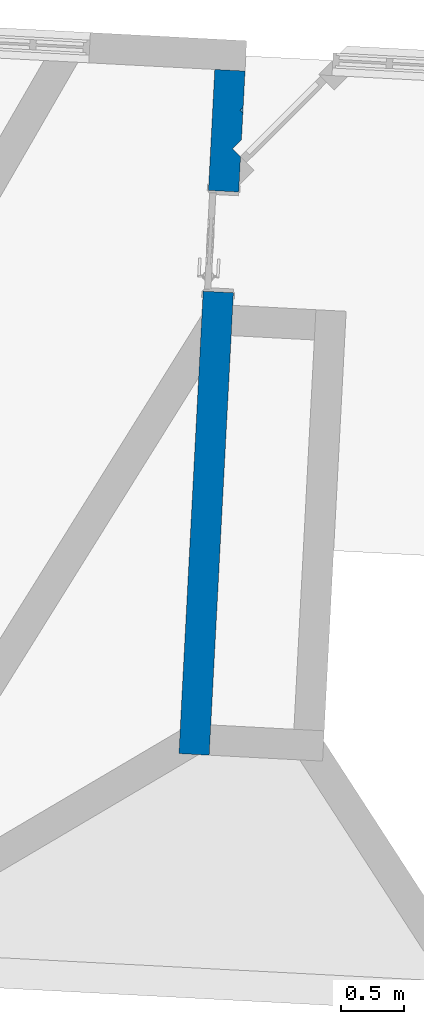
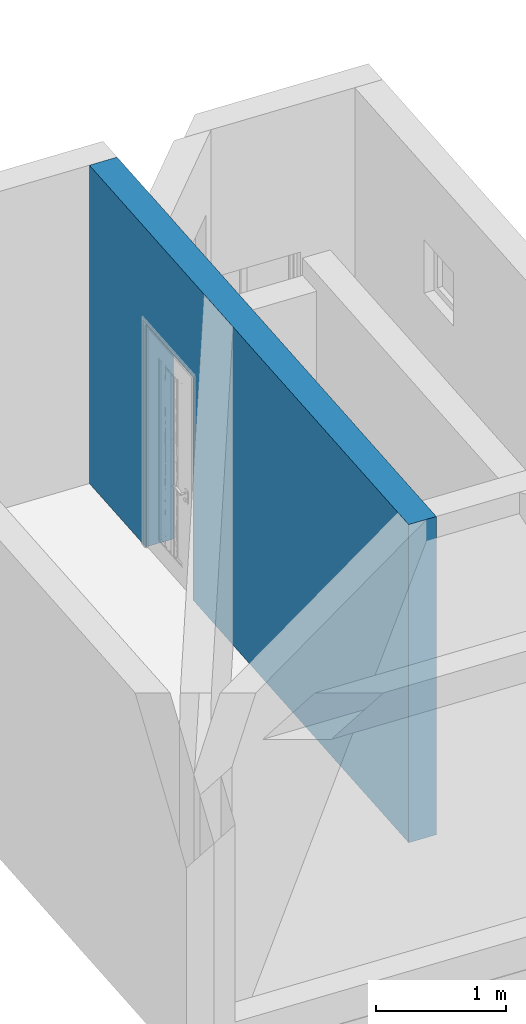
# One storey, part 27 of 33: 1 wall, 3 openings.
"""IFC2X3 building model written with IfcOpenShell, lengths in millimetres."""

from ifc_helpers import new_model, entity, si_unit, converted_unit, derived_unit, direction, frame, frame_2d, origin, place, context, subcontext, project, spatial, rectangle, extrude, material, layer, layer_set, layer_usage, type_object, element, save


model = new_model("IFC2X3")

# Units and contexts
model_context = context("Model", 3, precision=0.01, world=origin(), true_north=direction((6.12303176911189e-17, 1.0)))
body_context = subcontext(model_context, "Body", "Model", "MODEL_VIEW")
ifc_project = project(units=[si_unit("LENGTHUNIT", "METRE", prefix="MILLI"), si_unit("AREAUNIT", "SQUARE_METRE"), si_unit("VOLUMEUNIT", "CUBIC_METRE"), converted_unit("PLANEANGLEUNIT", "DEGREE", entity("IfcRatioMeasure", 0.0174532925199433), si_unit("PLANEANGLEUNIT", "RADIAN"), dimensions=[0, 0, 0, 0, 0, 0, 0]), si_unit("MASSUNIT", "GRAM", prefix="KILO"), derived_unit("MASSDENSITYUNIT", [(si_unit("MASSUNIT", "GRAM", prefix="KILO"), 1), (si_unit("LENGTHUNIT", "METRE"), -3)]), si_unit("TIMEUNIT", "SECOND"), si_unit("FREQUENCYUNIT", "HERTZ"), si_unit("THERMODYNAMICTEMPERATUREUNIT", "DEGREE_CELSIUS"), derived_unit("THERMALTRANSMITTANCEUNIT", [(si_unit("MASSUNIT", "GRAM", prefix="KILO"), 1), (si_unit("THERMODYNAMICTEMPERATUREUNIT", "KELVIN"), -1), (si_unit("TIMEUNIT", "SECOND"), -3)]), derived_unit("VOLUMETRICFLOWRATEUNIT", [(si_unit("LENGTHUNIT", "METRE"), 3), (si_unit("TIMEUNIT", "SECOND"), -1)]), si_unit("ELECTRICCURRENTUNIT", "AMPERE"), si_unit("ELECTRICVOLTAGEUNIT", "VOLT"), si_unit("POWERUNIT", "WATT"), si_unit("FORCEUNIT", "NEWTON", prefix="KILO"), si_unit("ILLUMINANCEUNIT", "LUX"), si_unit("LUMINOUSFLUXUNIT", "LUMEN"), si_unit("LUMINOUSINTENSITYUNIT", "CANDELA"), derived_unit("USERDEFINED", [(si_unit("MASSUNIT", "GRAM", prefix="KILO"), -1), (si_unit("LENGTHUNIT", "METRE"), -2), (si_unit("TIMEUNIT", "SECOND"), 3), (si_unit("LUMINOUSFLUXUNIT", "LUMEN"), 1)]), derived_unit("LINEARVELOCITYUNIT", [(si_unit("LENGTHUNIT", "METRE"), 1), (si_unit("TIMEUNIT", "SECOND"), -1)]), si_unit("PRESSUREUNIT", "PASCAL"), derived_unit("USERDEFINED", [(si_unit("LENGTHUNIT", "METRE"), -2), (si_unit("MASSUNIT", "GRAM", prefix="KILO"), 1), (si_unit("TIMEUNIT", "SECOND"), -2)])], contexts=[model_context])

# Site, building, storey
site_placement = place(None, origin())
site = spatial("IfcSite", under=ifc_project, at=site_placement, Name="表面", CompositionType="ELEMENT")
building_placement = place(site_placement, origin())
building = spatial("IfcBuilding", under=site, at=building_placement, CompositionType="ELEMENT")
storey_placement = place(building_placement, frame((0.0, 0.0, 6000.0)))
storey = spatial("IfcBuildingStorey", under=building, at=storey_placement, Name="3F", CompositionType="ELEMENT", Elevation=6000.00000000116)

# Wall, openings
ifc_material_1 = material(Name="白色涂料")
ifc_layer_1 = layer(ifc_material_1, 10.0)
ifc_material_2 = material(Name="默认墙")
ifc_layer_2 = layer(ifc_material_2, 220.0)
ifc_layer_3 = layer(ifc_material_1, 10.0)
ifc_layer_set = layer_set([ifc_layer_1, ifc_layer_2, ifc_layer_3], Name="基本墙:粉刷墙240")
ifc_layer_usage = layer_usage(ifc_layer_set, "AXIS2", "NEGATIVE", 120.0)
wall_type = type_object("IfcWallType", Name="基本墙:粉刷墙240", PredefinedType="STANDARD", material=ifc_layer_set)
wall_placement = place(storey_placement, frame((-22374.1001805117, 7709.28100802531, 0.0), z_axis=(0.0, 0.0, 1.0), x_axis=(-0.0523359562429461, -0.998629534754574, 0.0)))
wall = element("IfcWallStandardCase", 1, at=wall_placement, inside=storey, type_object=wall_type, material=ifc_layer_usage, Name="基本墙:粉刷墙240", ObjectType="基本墙:粉刷墙240", context=body_context, shape_type="SweptSolid", body=[
    extrude(rectangle(XDim=5430.00000000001, YDim=240.0, at=frame_2d((2715.0, 9.9475983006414e-14), x_axis=(-1.0, 0.0))), origin(), (0.0, 0.0, 1.0), 3000.0),
])
opening_1_placement = place(wall_placement, origin())
element("IfcOpeningElement", 2, at=opening_1_placement, cuts=wall, Name="基本墙:粉刷墙240", ObjectType="Opening", context=body_context, shape_type="SweptSolid", body=[
    extrude(rectangle(XDim=2300.0, YDim=900.0, at=frame_2d((-1.13686837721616e-12, 2.30215846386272e-12), x_axis=(1.0, 0.0))), frame((286.210458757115, 355.16649595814, 1150.0), z_axis=(0.669130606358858, 0.743144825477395, 0.0), x_axis=(0.0, 0.0, 1.0)), (0.0, 0.0, 1.0), 239.999999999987),
])
opening_2_placement = place(wall_placement, origin())
element("IfcOpeningElement", 3, at=opening_2_placement, cuts=wall, Name="基本墙:粉刷墙240", ObjectType="Opening", context=body_context, shape_type="SweptSolid", body=[
    extrude(rectangle(XDim=499.999999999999, YDim=499.999999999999, at=frame_2d((-2.30215846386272e-12, 0.0), x_axis=(0.0, 1.0))), frame((127.762213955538, 263.962045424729, 1164.06631961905), z_axis=(0.669130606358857, 0.743144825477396, 0.0), x_axis=(-0.743144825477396, 0.669130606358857, 0.0)), (0.0, 0.0, 1.0), 239.999999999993),
])
opening_3_placement = place(wall_placement, frame((1760.0, 120.0, 1.15433635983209e-09)))
element("IfcOpeningElement", 4, at=opening_3_placement, cuts=wall, Name="装饰木门:M0821:1", ObjectType="Opening", context=body_context, shape_type="SweptSolid", body=[
    extrude(rectangle(XDim=2099.99999999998, YDim=800.0, at=frame_2d((1049.99999999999, 400.000000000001), x_axis=(1.0, 0.0))), frame((0.0, 0.0, 0.0), z_axis=(0.0, -1.0, 0.0), x_axis=(0.0, 0.0, 1.0)), (0.0, 0.0, 1.0), 240.0),
])

save(model, "model.ifc")
